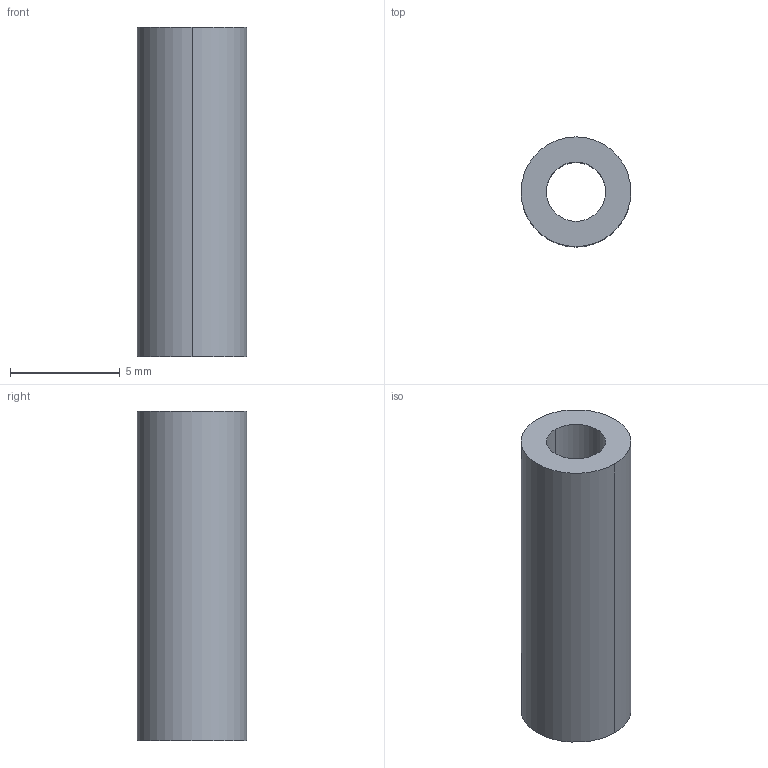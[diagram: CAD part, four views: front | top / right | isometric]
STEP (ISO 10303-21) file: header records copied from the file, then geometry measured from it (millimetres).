
FILE_DESCRIPTION(/* description */ ('VariCAD 2008 3.04 AP-203'),/* implementation_level */ '2;1');
FILE_NAME(/* name */ '0353-20-02',/* time_stamp */ '2009-04-26T14:36:29-06:00',/* author */ (''),/* organization */ (''),/* preprocessor_version */ 'ST-DEVELOPER v12',/* originating_system */ 'VariCAD 2008 3.04; kernel version (20080715)',/* authorisation */ '');
FILE_SCHEMA (('CONFIG_CONTROL_DESIGN'));
Length unit declared in the file: millimetre
Products named in the file (1): Part
Bounding box: 5 x 5 x 15 mm (x, y, z)
Volume: 208.6 mm3; surface area: 390.7 mm2
Topology: 1 solids, 1 shells, 6 faces, 12 edges, 8 vertices
Faces by surface type: cylinder 4, plane 2
Entity records: 214 total; most frequent: DIRECTION 36, CARTESIAN_POINT 28, ORIENTED_EDGE 24, AXIS2_PLACEMENT_3D 16, EDGE_CURVE 12, EDGE_LOOP 8, CIRCLE 8, VERTEX_POINT 8
